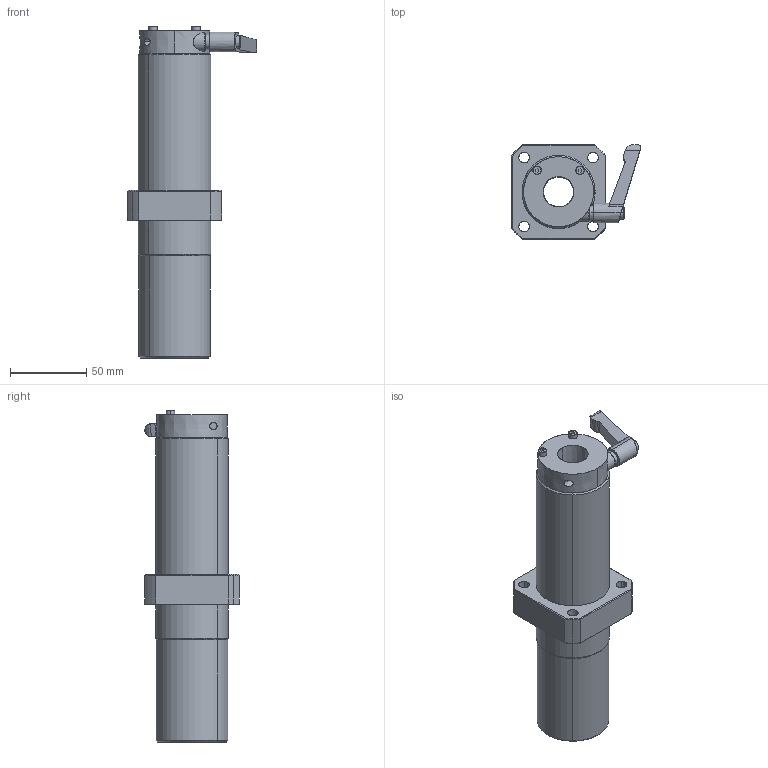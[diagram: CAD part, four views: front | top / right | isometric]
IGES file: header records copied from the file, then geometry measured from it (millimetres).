
Start section: SolidWorks IGES file using analytic representation for surfaces
Global section: file name: C:\Users\yamad\Desktop\IGES\LFWLC20MF-C.IGS; native system: SolidWorks 2019; preprocessor: SolidWorks 2019; author: yamad; date: 230627.104747; units: millimetre
Bounding box: 84.9 x 62 x 218 mm (x, y, z)
Surface area: 67278.1 mm2 (no closed solid volume)
Topology: 0 solids, 0 shells, 237 faces, 5334 edges, 5334 vertices
Faces by surface type: bspline 121, revolution 116
